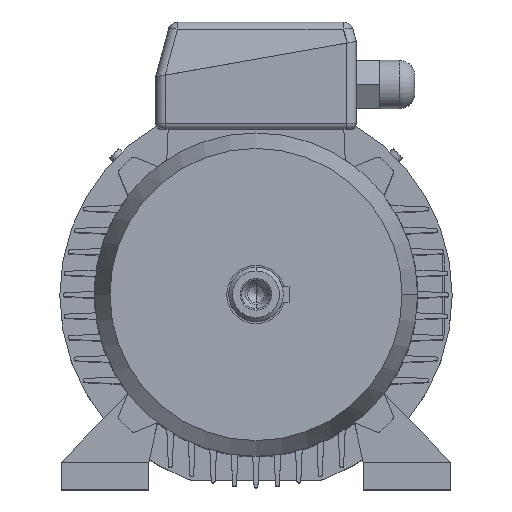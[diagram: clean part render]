
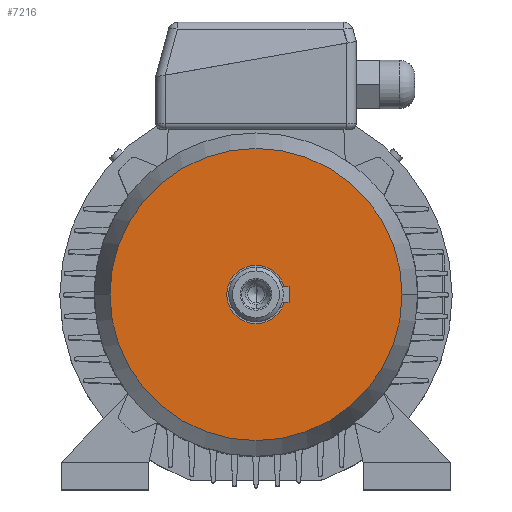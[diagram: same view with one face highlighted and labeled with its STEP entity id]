
A CAD part, top view. The second image highlights one B-rep face of the part: STEP entity #7216.
In plain terms, the highlighted planar face has unit normal (0, 0, 1).
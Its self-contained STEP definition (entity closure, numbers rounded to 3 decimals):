
#796 = FACE_OUTER_BOUND ( 'NONE', #6941, .T. ) ;
#797 = PLANE ( 'NONE',  #798 ) ;
#798 = AXIS2_PLACEMENT_3D ( 'NONE', #799, #800, #801 ) ;
#799 = CARTESIAN_POINT ( 'NONE',  ( 0., 75., 35.5 ) ) ;
#800 = DIRECTION ( 'NONE',  ( 0., 0., 1. ) ) ;
#801 = DIRECTION ( 'NONE',  ( 1., 0., 0. ) ) ;
#18887 = CIRCLE ( 'NONE', #18888, 75. ) ;
#18888 = AXIS2_PLACEMENT_3D ( 'NONE', #18889, #18890, #18891 ) ;
#18889 = CARTESIAN_POINT ( 'NONE',  ( 0., 0., 35.5 ) ) ;
#18890 = DIRECTION ( 'NONE',  ( 0., 0., -1. ) ) ;
#18891 = DIRECTION ( 'NONE',  ( -1., 0., 0. ) ) ;
#5270 = EDGE_CURVE ( 'NONE', #13385, #16116, #18887, .T. ) ;
#5712 = ORIENTED_EDGE ( 'NONE', *, *, #5270, .F. ) ;
#5847 = CARTESIAN_POINT ( 'NONE',  ( 75., 0., 35.5 ) ) ;
#5903 = CIRCLE ( 'NONE', #5912, 75. ) ;
#5912 = AXIS2_PLACEMENT_3D ( 'NONE', #5913, #5914, #5915 ) ;
#5913 = CARTESIAN_POINT ( 'NONE',  ( 0., 0., 35.5 ) ) ;
#5914 = DIRECTION ( 'NONE',  ( 0., 0., -1. ) ) ;
#5915 = DIRECTION ( 'NONE',  ( -1., 0., 0. ) ) ;
#6323 = ORIENTED_EDGE ( 'NONE', *, *, #13408, .F. ) ;
#6941 = EDGE_LOOP ( 'NONE', ( #6323, #5712 ) ) ;
#7216 = ADVANCED_FACE ( 'NONE', ( #796 ), #797, .T. ) ;
#10340 = CARTESIAN_POINT ( 'NONE',  ( -75., 0., 35.5 ) ) ;
#13385 = VERTEX_POINT ( 'NONE', #5847 ) ;
#13408 = EDGE_CURVE ( 'NONE', #16116, #13385, #5903, .T. ) ;
#16116 = VERTEX_POINT ( 'NONE', #10340 ) ;
